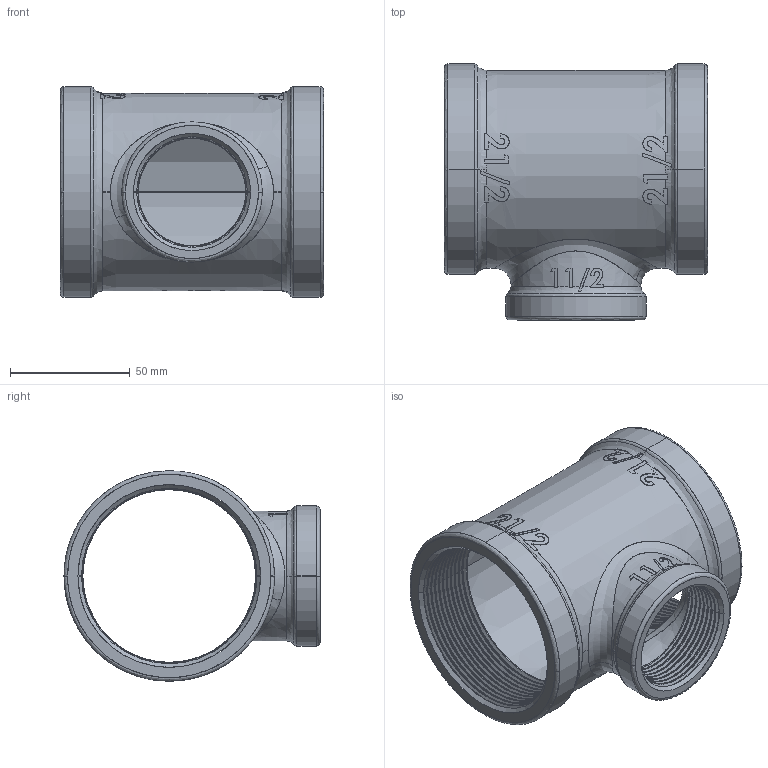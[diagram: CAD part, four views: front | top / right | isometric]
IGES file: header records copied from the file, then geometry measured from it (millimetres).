
Start section: SolidWorks IGES file using analytic representation for surfaces
Global section: file name: C:\Users\Joel Rosa\Desktop\Tubulação\12-45-XXX\12-45-050.IGS; native system: SolidWorks 2011; preprocessor: SolidWorks 2011; author: Joel Rosa; date: 121212.234531; units: millimetre
Bounding box: 110 x 107 x 88 mm (x, y, z)
Surface area: 74005.5 mm2 (no closed solid volume)
Topology: 0 solids, 0 shells, 539 faces, 5590 edges, 5590 vertices
Faces by surface type: bspline 374, revolution 165
